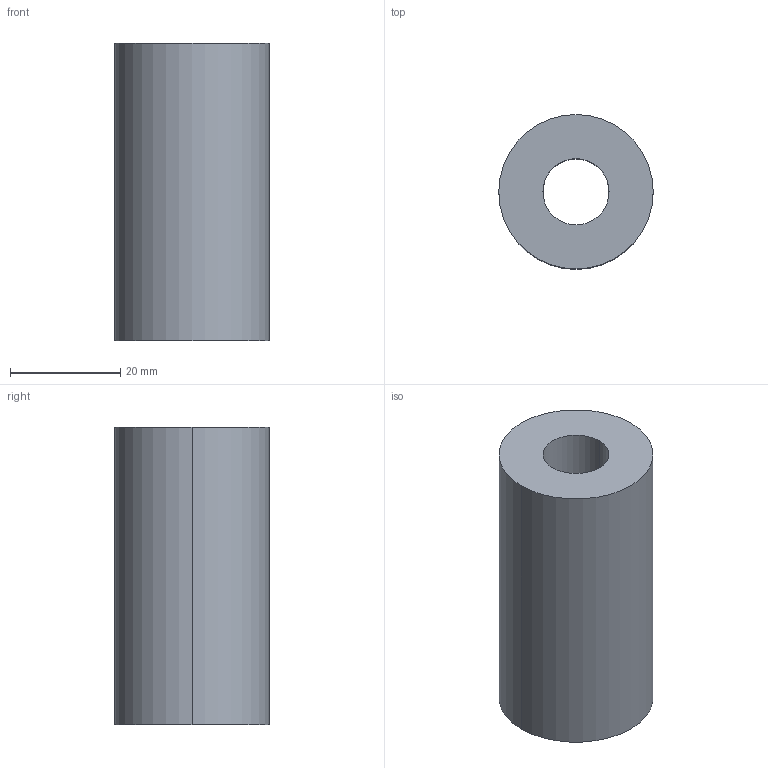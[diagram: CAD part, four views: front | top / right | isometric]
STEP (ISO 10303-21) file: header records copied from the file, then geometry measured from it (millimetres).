
FILE_DESCRIPTION (( 'STEP AP214' ), '1' );
FILE_NAME ('Abstandshalter1.STEP', '2016-12-28T08:48:45', ( '' ), ( '' ), 'SwSTEP 2.0', 'SolidWorks 2016', '' );
FILE_SCHEMA (( 'AUTOMOTIVE_DESIGN' ));
Length unit declared in the file: millimetre
Products named in the file (1): Abstandshalter1
Bounding box: 28 x 28 x 54 mm (x, y, z)
Volume: 27143.4 mm3; surface area: 7791.1 mm2
Topology: 1 solids, 1 shells, 6 faces, 12 edges, 8 vertices
Faces by surface type: cylinder 4, plane 2
Entity records: 202 total; most frequent: DIRECTION 34, CARTESIAN_POINT 27, ORIENTED_EDGE 24, AXIS2_PLACEMENT_3D 15, EDGE_CURVE 12, CIRCLE 8, EDGE_LOOP 8, VERTEX_POINT 8
